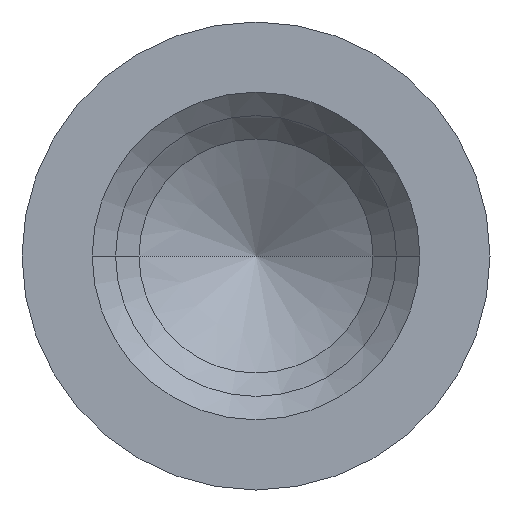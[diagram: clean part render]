
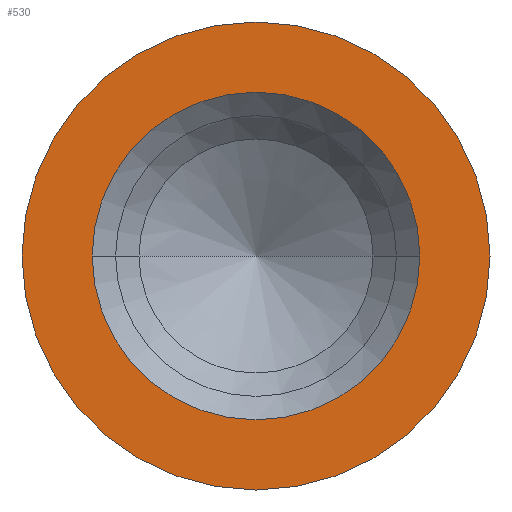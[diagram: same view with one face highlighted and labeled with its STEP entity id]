
A CAD part, front view. The second image highlights one B-rep face of the part: STEP entity #530.
In plain terms, the highlighted planar face has unit normal (0, -1, 0).
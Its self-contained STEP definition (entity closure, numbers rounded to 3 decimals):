
#341=CARTESIAN_POINT('',(0.,32.,202.));
#342=DIRECTION('',(0.,-1.,0.));
#343=DIRECTION('',(1.,0.,0.));
#344=AXIS2_PLACEMENT_3D('',#341,#342,#343);
#349=CARTESIAN_POINT('',(0.,32.,202.));
#350=DIRECTION('',(0.,-1.,0.));
#351=DIRECTION('',(-1.,0.,0.));
#352=AXIS2_PLACEMENT_3D('',#349,#350,#351);
#357=CARTESIAN_POINT('',(0.,32.,202.));
#358=DIRECTION('',(0.,-1.,0.));
#359=DIRECTION('',(-1.,0.,0.));
#360=AXIS2_PLACEMENT_3D('',#357,#358,#359);
#365=CARTESIAN_POINT('',(0.,32.,202.));
#366=DIRECTION('',(0.,-1.,0.));
#367=DIRECTION('',(1.,0.,0.));
#368=AXIS2_PLACEMENT_3D('',#365,#366,#367);
#464=CARTESIAN_POINT('',(-2.5,32.,202.));
#466=VERTEX_POINT('',#464);
#467=CARTESIAN_POINT('',(2.5,32.,202.));
#468=VERTEX_POINT('',#467);
#481=CARTESIAN_POINT('',(-1.75,32.,202.));
#482=VERTEX_POINT('',#481);
#483=CARTESIAN_POINT('',(1.75,32.,202.));
#484=VERTEX_POINT('',#483);
#515=CARTESIAN_POINT('',(0.,32.,202.));
#516=DIRECTION('',(0.,-1.,0.));
#517=DIRECTION('',(1.,0.,0.));
#518=AXIS2_PLACEMENT_3D('',#515,#516,#517);
#519=PLANE('',#518);
#520=ORIENTED_EDGE('',*,*,#496,.F.);
#521=ORIENTED_EDGE('',*,*,#507,.F.);
#522=EDGE_LOOP('',(#520,#521));
#523=FACE_OUTER_BOUND('',#522,.F.);
#525=ORIENTED_EDGE('',*,*,#524,.T.);
#527=ORIENTED_EDGE('',*,*,#526,.T.);
#528=EDGE_LOOP('',(#525,#527));
#529=FACE_BOUND('',#528,.F.);
#345=CIRCLE('',#344,2.5);
#353=CIRCLE('',#352,2.5);
#361=CIRCLE('',#360,1.75);
#369=CIRCLE('',#368,1.75);
#496=EDGE_CURVE('',#468,#466,#345,.T.);
#507=EDGE_CURVE('',#466,#468,#353,.T.);
#524=EDGE_CURVE('',#482,#484,#361,.T.);
#526=EDGE_CURVE('',#484,#482,#369,.T.);
#530=ADVANCED_FACE('',(#523,#529),#519,.T.);
